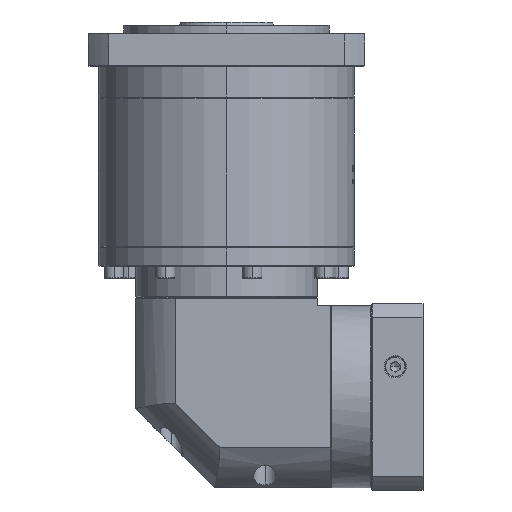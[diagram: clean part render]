
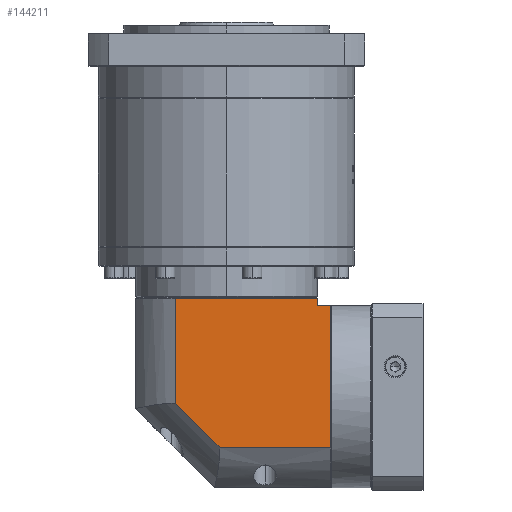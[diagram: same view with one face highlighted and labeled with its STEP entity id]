
A CAD part, left-side view. The second image highlights one B-rep face of the part: STEP entity #144211.
In plain terms, the highlighted planar face has unit normal (-1, 0, 0).
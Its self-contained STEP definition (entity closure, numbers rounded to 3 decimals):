
#445 = VERTEX_POINT ( 'NONE', #97949 ) ;
#2428 = CARTESIAN_POINT ( 'NONE',  ( -41.905, -42.107, 237.9 ) ) ;
#3706 = EDGE_CURVE ( 'NONE', #66125, #445, #112380, .T. ) ;
#5294 = ORIENTED_EDGE ( 'NONE', *, *, #36817, .F. ) ;
#5636 = EDGE_CURVE ( 'NONE', #103349, #79085, #51255, .T. ) ;
#10244 = CARTESIAN_POINT ( 'NONE',  ( -41.905, 19.455, 148. ) ) ;
#21806 = LINE ( 'NONE', #71951, #47927 ) ;
#23564 = DIRECTION ( 'NONE',  ( 0., -1., 0. ) ) ;
#23962 = PLANE ( 'NONE',  #122966 ) ;
#24078 = DIRECTION ( 'NONE',  ( 0., 1., 0. ) ) ;
#25222 = LINE ( 'NONE', #10244, #124358 ) ;
#25596 = CARTESIAN_POINT ( 'NONE',  ( -41.905, -42.107, 237.9 ) ) ;
#31815 = ORIENTED_EDGE ( 'NONE', *, *, #5636, .F. ) ;
#35645 = VECTOR ( 'NONE', #120137, 1000. ) ;
#36566 = CARTESIAN_POINT ( 'NONE',  ( -41.905, 72.893, 242.9 ) ) ;
#36762 = EDGE_CURVE ( 'NONE', #80282, #141955, #142054, .T. ) ;
#36817 = EDGE_CURVE ( 'NONE', #79085, #83529, #110232, .T. ) ;
#47347 = CARTESIAN_POINT ( 'NONE',  ( -41.905, 72.893, 148. ) ) ;
#47927 = VECTOR ( 'NONE', #58865, 1000. ) ;
#51255 = LINE ( 'NONE', #79651, #64304 ) ;
#58865 = DIRECTION ( 'NONE',  ( 0., 0., 1. ) ) ;
#62565 = EDGE_CURVE ( 'NONE', #80282, #66125, #141013, .T. ) ;
#62736 = ORIENTED_EDGE ( 'NONE', *, *, #103477, .F. ) ;
#64304 = VECTOR ( 'NONE', #138763, 1000. ) ;
#66125 = VERTEX_POINT ( 'NONE', #93684 ) ;
#68373 = EDGE_CURVE ( 'NONE', #141955, #83529, #21806, .T. ) ;
#71951 = CARTESIAN_POINT ( 'NONE',  ( -41.905, -42.107, 122.9 ) ) ;
#76657 = CARTESIAN_POINT ( 'NONE',  ( -41.905, 47.793, 176.338 ) ) ;
#78353 = VECTOR ( 'NONE', #23564, 1000. ) ;
#79085 = VERTEX_POINT ( 'NONE', #140298 ) ;
#79651 = CARTESIAN_POINT ( 'NONE',  ( -41.905, 47.793, 249.4 ) ) ;
#80282 = VERTEX_POINT ( 'NONE', #114140 ) ;
#82473 = ORIENTED_EDGE ( 'NONE', *, *, #62565, .F. ) ;
#83529 = VERTEX_POINT ( 'NONE', #139379 ) ;
#84734 = ORIENTED_EDGE ( 'NONE', *, *, #36762, .T. ) ;
#87491 = DIRECTION ( 'NONE',  ( 0., 0., -1. ) ) ;
#93684 = CARTESIAN_POINT ( 'NONE',  ( -41.905, -50.507, 148. ) ) ;
#93865 = DIRECTION ( 'NONE',  ( 0., 0.707, 0.707 ) ) ;
#97949 = CARTESIAN_POINT ( 'NONE',  ( -41.905, 19.455, 148. ) ) ;
#98957 = ORIENTED_EDGE ( 'NONE', *, *, #3706, .F. ) ;
#103349 = VERTEX_POINT ( 'NONE', #76657 ) ;
#103477 = EDGE_CURVE ( 'NONE', #445, #103349, #25222, .T. ) ;
#110232 = LINE ( 'NONE', #36566, #78353 ) ;
#111005 = VECTOR ( 'NONE', #87491, 1000. ) ;
#112380 = LINE ( 'NONE', #47347, #35645 ) ;
#113624 = FACE_OUTER_BOUND ( 'NONE', #148999, .T. ) ;
#114140 = CARTESIAN_POINT ( 'NONE',  ( -41.905, -50.507, 237.9 ) ) ;
#120137 = DIRECTION ( 'NONE',  ( 0., 1., 0. ) ) ;
#122966 = AXIS2_PLACEMENT_3D ( 'NONE', #129059, #141122, #153183 ) ;
#124358 = VECTOR ( 'NONE', #93865, 1000. ) ;
#129059 = CARTESIAN_POINT ( 'NONE',  ( -41.905, 72.893, 249.4 ) ) ;
#137113 = CARTESIAN_POINT ( 'NONE',  ( -41.905, -50.507, 249.4 ) ) ;
#138763 = DIRECTION ( 'NONE',  ( 0., 0., 1. ) ) ;
#139379 = CARTESIAN_POINT ( 'NONE',  ( -41.905, -42.107, 242.9 ) ) ;
#140298 = CARTESIAN_POINT ( 'NONE',  ( -41.905, 47.793, 242.9 ) ) ;
#141013 = LINE ( 'NONE', #137113, #111005 ) ;
#141122 = DIRECTION ( 'NONE',  ( 1., 0., 0. ) ) ;
#141955 = VERTEX_POINT ( 'NONE', #2428 ) ;
#142054 = LINE ( 'NONE', #25596, #155115 ) ;
#144211 = ADVANCED_FACE ( 'NONE', ( #113624 ), #23962, .F. ) ;
#148999 = EDGE_LOOP ( 'NONE', ( #31815, #62736, #98957, #82473, #84734, #150896, #5294 ) ) ;
#150896 = ORIENTED_EDGE ( 'NONE', *, *, #68373, .T. ) ;
#153183 = DIRECTION ( 'NONE',  ( 0., 1., 0. ) ) ;
#155115 = VECTOR ( 'NONE', #24078, 1000. ) ;
